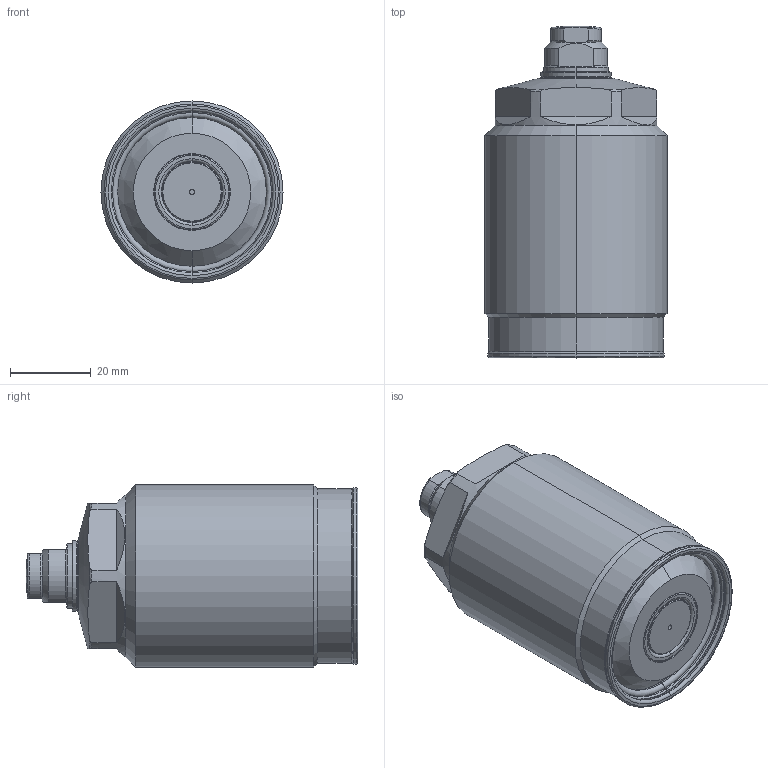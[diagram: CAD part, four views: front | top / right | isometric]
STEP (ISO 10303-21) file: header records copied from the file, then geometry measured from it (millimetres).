
FILE_DESCRIPTION(/* description */ (''),/* implementation_level */ '2;1');
FILE_NAME(/* name */ 'TSC45.stp',/* time_stamp */ '2024-11-02T14:31:02+08:00',/* author */ (''),/* organization */ (''),/* preprocessor_version */ 'ST-DEVELOPER v16.7',/* originating_system */ 'SIEMENS PLM Software NX 12.0',/* authorisation */ '');
FILE_SCHEMA (('AP203_CONFIGURATION_CONTROLLED_3D_DESIGN_OF_MECHANICAL_PARTS_AND_ASSEMBLIES_MIM_LF { 1 0 10303 403 2 1 2}'));
Length unit declared in the file: millimetre
Products named in the file (7): XLC-M10_contactbolt4431; XLC-M10_Oring969; TSC45-03; TSC45-02; TSC45-01; TSC45-04; LD0453-x_step
Assembly tree (6 placements, depth 3):
  LD0453-x_step
    TSC45-01
    TSC45-02
    TSC45-03
    TSC45-04
      XLC-M10_Oring969
      XLC-M10_contactbolt4431
Bounding box: 45 x 82 x 45 mm (x, y, z)
Volume: 102067.1 mm3; surface area: 16869.2 mm2
Topology: 5 solids, 5 shells, 375 faces, 782 edges, 428 vertices
Faces by surface type: cone 230, torus 62, cylinder 43, plane 38, sphere 2
Entity records: 10921 total; most frequent: CARTESIAN_POINT 1994, DIRECTION 1941, ORIENTED_EDGE 1564, AXIS2_PLACEMENT_3D 821, EDGE_CURVE 782, CIRCLE 439, VERTEX_POINT 428, EDGE_LOOP 390
